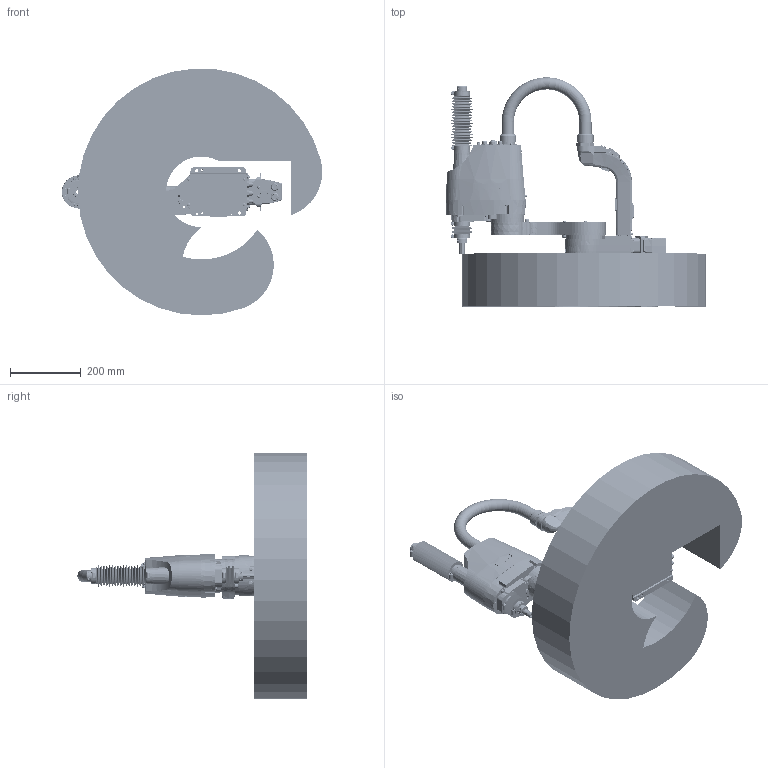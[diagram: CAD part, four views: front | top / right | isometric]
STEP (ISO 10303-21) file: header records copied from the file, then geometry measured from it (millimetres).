
FILE_DESCRIPTION( ( 'STEP AP214' ), '1' );
FILE_NAME( 'C:/Users/9607552/Desktop/GX4-A/GX4-A351C-RA-W.stp', '2023-04-07T04:59:11', ( '' ), ( '' ), ' ', 'PARTsolutions', ' ' );
FILE_SCHEMA( ( 'AUTOMOTIVE_DESIGN { 1 0 10303 214 1 1 1 1 }' ) );
Length unit declared in the file: millimetre
Products named in the file (10): GX4-A351C-RA-W; _A251C-b; _A351S-R_J1_ARM; _A251S-a; _A351S_CONDUIT; _A251C; _A251C-long; _A251C-short; _Angle; _GX4-34_WS
Assembly tree (9 placements, depth 2):
  GX4-A351C-RA-W
    _A251C-b
    _A351S-R_J1_ARM
    _A251S-a
    _A351S_CONDUIT
    _A251C
    _A251C-long
    _A251C-short
    _Angle
    _GX4-34_WS
Bounding box: 737.83 x 649.65 x 699.31 mm (x, y, z)
Volume: 51464176.9 mm3; surface area: 1977826.2 mm2
Topology: 9 solids, 9 shells, 4177 faces, 10166 edges, 6593 vertices
Faces by surface type: plane 2428, cylinder 1151, cone 400, torus 105, bspline 90, sphere 3
Full cylindrical faces by diameter (mm): 1 x30, 1.13 x55, 1.18 x55, 2.459 x4, 2.5 x19, 2.99 x1, 3 x35, 3.2 x3, 3.242 x1, 3.3 x46, 3.4 x32, 3.5 x12, 4 x4, 4.5 x24, 4.8 x8, 4.917 x2, 5 x1, 5.34 x8, 5.4 x14, 5.5 x26, 5.6 x4, 5.68 x4, 5.9 x4, 5.999 x8, 6 x9, 6.7 x4, 6.8 x7, 7 x44, 7.1 x4, 7.8 x4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
Entity records: 156046 total; most frequent: CARTESIAN_POINT 29732, DIRECTION 18490, ORIENTED_EDGE 18188, EDGE_CURVE 9094, AXIS2_PLACEMENT_3D 7021, VERTEX_POINT 6480, EDGE_LOOP 5762, FACE_OUTER_BOUND 4860
